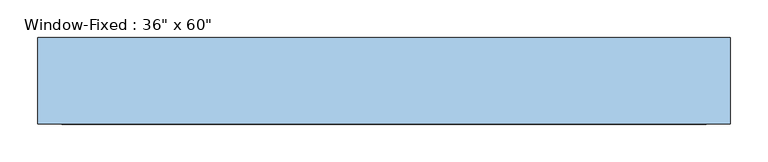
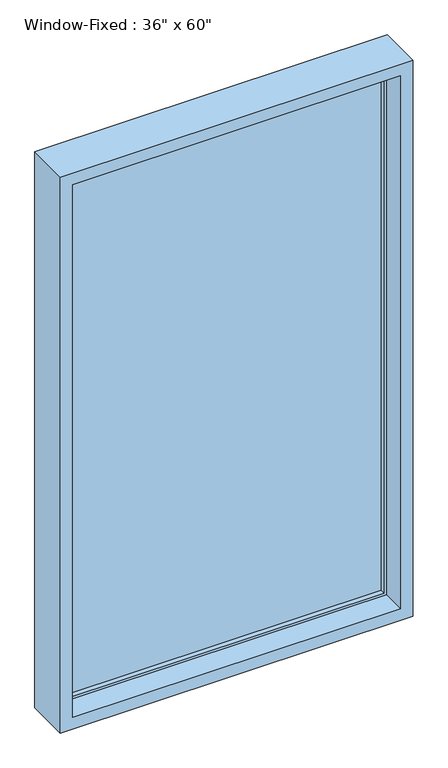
"""IFC4 building model written with IfcOpenShell, lengths in millimetres: window geometry."""

from ifc_helpers import new_model, si_unit, frame, origin, place, context, project, spatial, polyline, outline, extrude, faceted_brep, source, transform, mapped, element, save


def window_19416845(model_context):
    return source(origin(), model_context, "Body", "SolidModel", [
        extrude(outline(polyline([(419.1, 152.4), (419.1, 146.05), (-419.1, 146.05), (-419.1, 152.4), (419.1, 152.4)])), frame((0.0, 0.0, 952.5), z_axis=(0.0, 0.0, 1.0), x_axis=(1.0, 0.0, 0.0)), (0.0, 0.0, 1.0), 1447.8),
        extrude(outline(polyline([(-419.1, 133.35), (-419.1, 139.7), (419.1, 139.7), (419.1, 133.35), (-419.1, 133.35)])), frame((0.0, 0.0, 952.5), z_axis=(0.0, 0.0, 1.0), x_axis=(1.0, 0.0, 0.0)), (0.0, 0.0, 1.0), 1447.8),
        extrude(outline(polyline([(927.1, 444.5), (2425.7, 444.5), (2425.7, -444.5), (927.1, -444.5), (927.1, 444.5)]), holes=[polyline([(952.5, -419.1), (2400.3, -419.1), (2400.3, 419.1), (952.5, 419.1), (952.5, -419.1)])]), frame((0.0, 120.65, 0.0), z_axis=(0.0, 1.0, 0.0), x_axis=(0.0, 0.0, 1.0)), (0.0, 0.0, 1.0), 44.45),
        faceted_brep([(457.2, 57.15, 2438.4), (457.2, 171.45, 2438.4), (-457.2, 171.45, 2438.4), (-457.2, 57.15, 2438.4), (-457.2, 171.45, 914.4), (-457.2, 57.15, 914.4), (457.2, 171.45, 914.4), (457.2, 57.15, 914.4), (425.45, 57.15, 2406.65), (425.45, 57.15, 946.15), (-425.45, 57.15, 946.15), (-425.45, 57.15, 2406.65), (-444.5, 171.45, 2425.7), (-444.5, 171.45, 927.1), (444.5, 171.45, 927.1), (444.5, 171.45, 2425.7), (425.45, 120.65, 2406.65), (-425.45, 120.65, 2406.65), (444.5, 120.65, 2425.7), (-444.5, 120.65, 2425.7), (-425.45, 120.65, 946.15), (-444.5, 120.65, 927.1), (425.45, 120.65, 946.15), (444.5, 120.65, 927.1)], [[[0, 1, 2, 3]], [[3, 2, 4, 5]], [[5, 4, 6, 7]], [[3, 5, 7, 0], [8, 9, 10, 11]], [[7, 6, 1, 0]], [[1, 6, 4, 2], [12, 13, 14, 15]], [[16, 8, 11, 17]], [[15, 18, 19, 12]], [[17, 11, 10, 20]], [[12, 19, 21, 13]], [[20, 10, 9, 22]], [[13, 21, 23, 14]], [[22, 9, 8, 16]], [[18, 23, 21, 19], [17, 20, 22, 16]], [[14, 23, 18, 15]]]),
    ])


if __name__ == "__main__":
    model = new_model("IFC4")
    model_context = context("Model", 3, world=origin())
    ifc_project = project(units=[si_unit("LENGTHUNIT", "METRE", prefix="MILLI")], contexts=[model_context])
    site = spatial("IfcSite", under=ifc_project)
    building = spatial("IfcBuilding", under=site)
    placement = place(None, origin())
    window_shape = window_19416845(model_context)
    element("IfcWindow", 1, ObjectType="Window-Fixed : 36\" x 60\"", at=placement, inside=building, context=model_context, shape_type="MappedRepresentation", body=[
        mapped(window_shape, transform((0.0, 0.0, 0.0), x_axis=(1.0, 0.0, 0.0), y_axis=(0.0, 1.0, 0.0), z_axis=(0.0, 0.0, 1.0))),
    ])
    save(model, "model.ifc")
